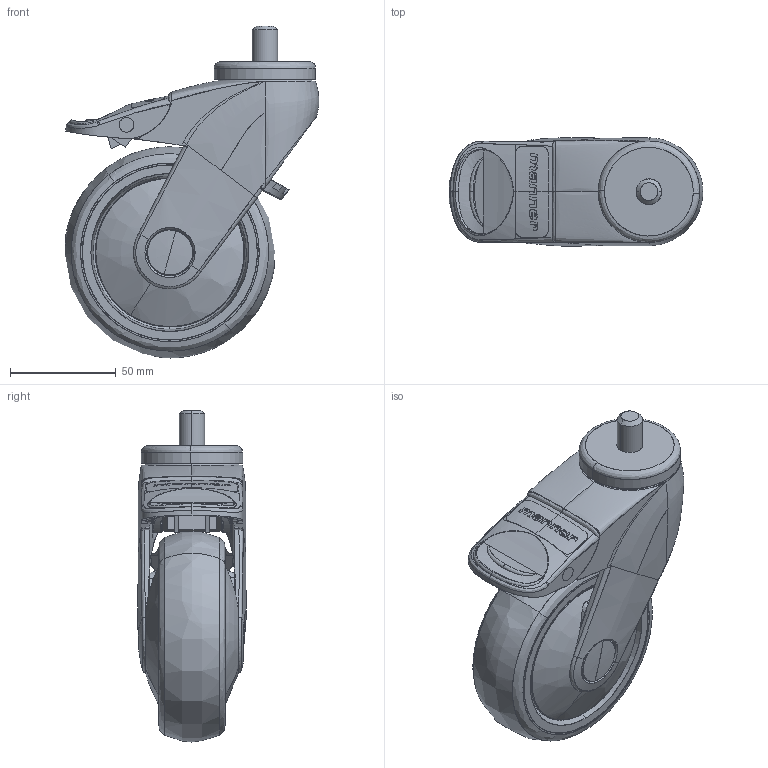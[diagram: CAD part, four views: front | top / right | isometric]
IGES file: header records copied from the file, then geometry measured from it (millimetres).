
Start section: SolidWorks IGES file using analytic representation for surfaces
Global section: file name: S:\Tyokansio\VL\301776_IGES.IGS; native system: SolidWorks 2011; preprocessor: SolidWorks 2011; author: VilleLa; date: 110620.085839; units: millimetre
Bounding box: 120.18 x 51.27 x 157.25 mm (x, y, z)
Surface area: 90425.3 mm2 (no closed solid volume)
Topology: 0 solids, 0 shells, 617 faces, 11319 edges, 11302 vertices
Faces by surface type: bspline 484, revolution 133
